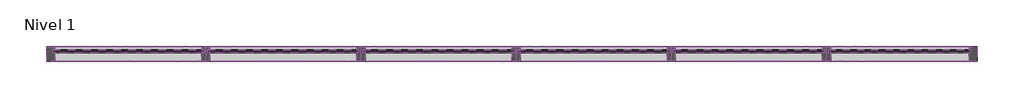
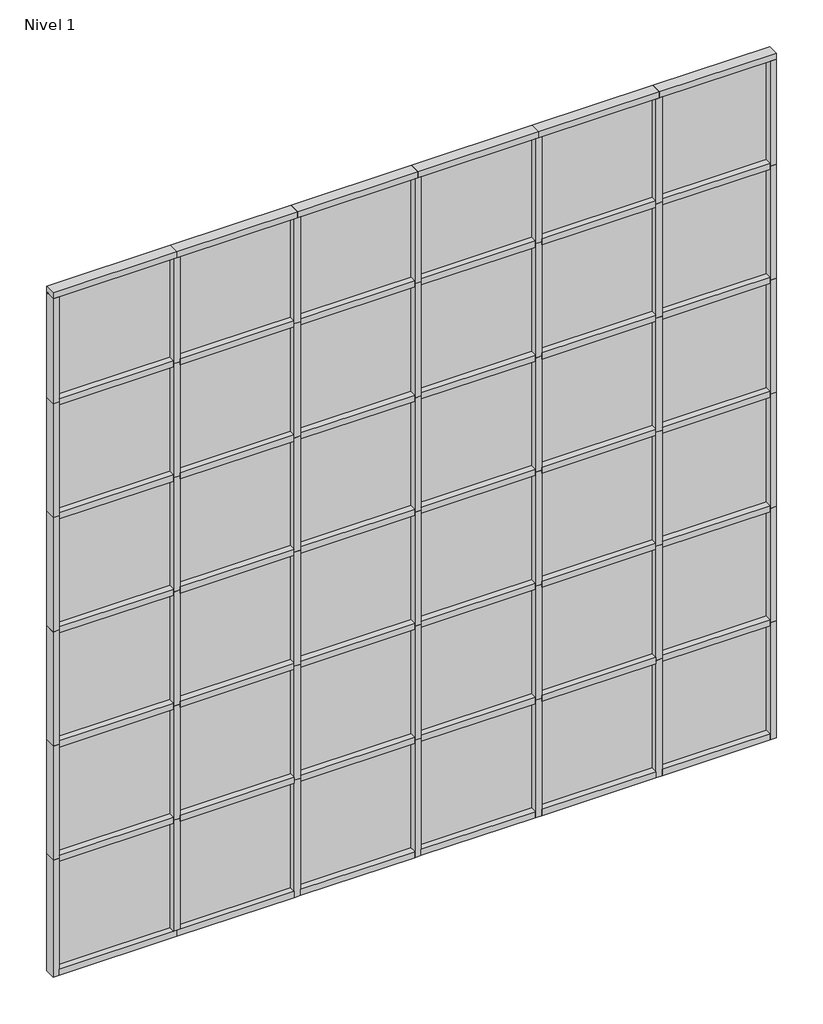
# One storey, part 2 of 12: 84 members, 36 plates.
"""IFC4 building model written with IfcOpenShell, lengths in millimetres."""

from ifc_helpers import new_model, si_unit, origin, place, context, project, spatial, transform, mapped, element, save
from components import montante_rectangular_montante_rectangular_central_30_8_mm_2c331f7a, montante_rectangular_montante_rectangular_central_30_8_mm_c970fd36, montante_rectangular_montante_rectangular_central_30_8_mm_e5800b63, montante_rectangular_montante_rectangular_central_30_8_mm_53c3e57f, montante_rectangular_montante_rectangular_central_30_8_mm_d86f33cf, montante_rectangular_montante_rectangular_central_30_8_mm_2cc1dee6, montante_rectangular_montante_rectangular_extremo_1_30_8_mm_80b4f17c, montante_rectangular_montante_rectangular_extremo_1_30_8_mm_140b2925, montante_rectangular_montante_rectangular_extremo_1_30_8_mm_5074caf2, montante_rectangular_montante_rectangular_extremo_1_30_8_mm_62ab01bd, montante_rectangular_montante_rectangular_extremo_1_30_8_mm_7b62097b, montante_rectangular_montante_rectangular_extremo_1_30_8_mm_4f2bc4b4, plate_e0fb009f, plate_7c9cb06b, plate_31a977c4, plate_dd025fa3

model = new_model("IFC4")

# Units and contexts
model_context = context("Model", 3, world=origin())
ifc_project = project(units=[si_unit("LENGTHUNIT", "METRE", prefix="MILLI")], contexts=[model_context])

# Site, building, storey
site = spatial("IfcSite", under=ifc_project)
building = spatial("IfcBuilding", under=site)
storey = spatial("IfcBuildingStorey", under=building, Name="Nivel 1", Elevation=0.0)

# Members
placement = place(None, origin())
montante_rectangular_montante_rectangular_central_30_8_mm_shape = montante_rectangular_montante_rectangular_central_30_8_mm_2c331f7a(model_context)
element("IfcMember", 1, ObjectType="Montante rectangular : Montante rectangular - Central_30.8 mm", at=placement, inside=storey, context=model_context, shape_type="MappedRepresentation", body=[
    mapped(montante_rectangular_montante_rectangular_central_30_8_mm_shape, transform((-131117.5480244, 4524.4730809, 1540.0), x_axis=(0.0, 0.0, 1.0), y_axis=(0.0, -1.0, 0.0), z_axis=(1.0, 0.0, 0.0))),
])
element("IfcMember", 2, ObjectType="Montante rectangular : Montante rectangular - Central_30.8 mm", at=placement, inside=storey, context=model_context, shape_type="MappedRepresentation", body=[
    mapped(montante_rectangular_montante_rectangular_central_30_8_mm_shape, transform((-129617.5480244, 4524.4730809, 1540.0), x_axis=(0.0, 0.0, 1.0), y_axis=(0.0, -1.0, 0.0), z_axis=(1.0, 0.0, 0.0))),
])
element("IfcMember", 3, ObjectType="Montante rectangular : Montante rectangular - Central_30.8 mm", at=placement, inside=storey, context=model_context, shape_type="MappedRepresentation", body=[
    mapped(montante_rectangular_montante_rectangular_central_30_8_mm_shape, transform((-128117.5480244, 4524.4730809, 1540.0), x_axis=(0.0, 0.0, 1.0), y_axis=(0.0, -1.0, 0.0), z_axis=(1.0, 0.0, 0.0))),
])
element("IfcMember", 4, ObjectType="Montante rectangular : Montante rectangular - Central_30.8 mm", at=placement, inside=storey, context=model_context, shape_type="MappedRepresentation", body=[
    mapped(montante_rectangular_montante_rectangular_central_30_8_mm_shape, transform((-126617.5480244, 4524.4730809, 1540.0), x_axis=(0.0, 0.0, 1.0), y_axis=(0.0, -1.0, 0.0), z_axis=(1.0, 0.0, 0.0))),
])
element("IfcMember", 5, ObjectType="Montante rectangular : Montante rectangular - Central_30.8 mm", at=placement, inside=storey, context=model_context, shape_type="MappedRepresentation", body=[
    mapped(montante_rectangular_montante_rectangular_central_30_8_mm_shape, transform((-125117.5480244, 4524.4730809, 1540.0), x_axis=(0.0, 0.0, 1.0), y_axis=(0.0, -1.0, 0.0), z_axis=(1.0, 0.0, 0.0))),
])
element("IfcMember", 6, ObjectType="Montante rectangular : Montante rectangular - Central_30.8 mm", at=placement, inside=storey, context=model_context, shape_type="MappedRepresentation", body=[
    mapped(montante_rectangular_montante_rectangular_central_30_8_mm_shape, transform((-131117.5480244, 4524.4730809, 3040.0), x_axis=(0.0, 0.0, 1.0), y_axis=(0.0, -1.0, 0.0), z_axis=(1.0, 0.0, 0.0))),
])
element("IfcMember", 7, ObjectType="Montante rectangular : Montante rectangular - Central_30.8 mm", at=placement, inside=storey, context=model_context, shape_type="MappedRepresentation", body=[
    mapped(montante_rectangular_montante_rectangular_central_30_8_mm_shape, transform((-129617.5480244, 4524.4730809, 3040.0), x_axis=(0.0, 0.0, 1.0), y_axis=(0.0, -1.0, 0.0), z_axis=(1.0, 0.0, 0.0))),
])
element("IfcMember", 8, ObjectType="Montante rectangular : Montante rectangular - Central_30.8 mm", at=placement, inside=storey, context=model_context, shape_type="MappedRepresentation", body=[
    mapped(montante_rectangular_montante_rectangular_central_30_8_mm_shape, transform((-128117.5480244, 4524.4730809, 3040.0), x_axis=(0.0, 0.0, 1.0), y_axis=(0.0, -1.0, 0.0), z_axis=(1.0, 0.0, 0.0))),
])
element("IfcMember", 9, ObjectType="Montante rectangular : Montante rectangular - Central_30.8 mm", at=placement, inside=storey, context=model_context, shape_type="MappedRepresentation", body=[
    mapped(montante_rectangular_montante_rectangular_central_30_8_mm_shape, transform((-126617.5480244, 4524.4730809, 3040.0), x_axis=(0.0, 0.0, 1.0), y_axis=(0.0, -1.0, 0.0), z_axis=(1.0, 0.0, 0.0))),
])
element("IfcMember", 10, ObjectType="Montante rectangular : Montante rectangular - Central_30.8 mm", at=placement, inside=storey, context=model_context, shape_type="MappedRepresentation", body=[
    mapped(montante_rectangular_montante_rectangular_central_30_8_mm_shape, transform((-125117.5480244, 4524.4730809, 3040.0), x_axis=(0.0, 0.0, 1.0), y_axis=(0.0, -1.0, 0.0), z_axis=(1.0, 0.0, 0.0))),
])
element("IfcMember", 11, ObjectType="Montante rectangular : Montante rectangular - Central_30.8 mm", at=placement, inside=storey, context=model_context, shape_type="MappedRepresentation", body=[
    mapped(montante_rectangular_montante_rectangular_central_30_8_mm_shape, transform((-131117.5480244, 4524.4730809, 4540.0), x_axis=(0.0, 0.0, 1.0), y_axis=(0.0, -1.0, 0.0), z_axis=(1.0, 0.0, 0.0))),
])
element("IfcMember", 12, ObjectType="Montante rectangular : Montante rectangular - Central_30.8 mm", at=placement, inside=storey, context=model_context, shape_type="MappedRepresentation", body=[
    mapped(montante_rectangular_montante_rectangular_central_30_8_mm_shape, transform((-129617.5480244, 4524.4730809, 4540.0), x_axis=(0.0, 0.0, 1.0), y_axis=(0.0, -1.0, 0.0), z_axis=(1.0, 0.0, 0.0))),
])
element("IfcMember", 13, ObjectType="Montante rectangular : Montante rectangular - Central_30.8 mm", at=placement, inside=storey, context=model_context, shape_type="MappedRepresentation", body=[
    mapped(montante_rectangular_montante_rectangular_central_30_8_mm_shape, transform((-128117.5480244, 4524.4730809, 4540.0), x_axis=(0.0, 0.0, 1.0), y_axis=(0.0, -1.0, 0.0), z_axis=(1.0, 0.0, 0.0))),
])
element("IfcMember", 14, ObjectType="Montante rectangular : Montante rectangular - Central_30.8 mm", at=placement, inside=storey, context=model_context, shape_type="MappedRepresentation", body=[
    mapped(montante_rectangular_montante_rectangular_central_30_8_mm_shape, transform((-126617.5480244, 4524.4730809, 4540.0), x_axis=(0.0, 0.0, 1.0), y_axis=(0.0, -1.0, 0.0), z_axis=(1.0, 0.0, 0.0))),
])
element("IfcMember", 15, ObjectType="Montante rectangular : Montante rectangular - Central_30.8 mm", at=placement, inside=storey, context=model_context, shape_type="MappedRepresentation", body=[
    mapped(montante_rectangular_montante_rectangular_central_30_8_mm_shape, transform((-125117.5480244, 4524.4730809, 4540.0), x_axis=(0.0, 0.0, 1.0), y_axis=(0.0, -1.0, 0.0), z_axis=(1.0, 0.0, 0.0))),
])
element("IfcMember", 16, ObjectType="Montante rectangular : Montante rectangular - Central_30.8 mm", at=placement, inside=storey, context=model_context, shape_type="MappedRepresentation", body=[
    mapped(montante_rectangular_montante_rectangular_central_30_8_mm_shape, transform((-131117.5480244, 4524.4730809, 6040.0), x_axis=(0.0, 0.0, 1.0), y_axis=(0.0, -1.0, 0.0), z_axis=(1.0, 0.0, 0.0))),
])
element("IfcMember", 17, ObjectType="Montante rectangular : Montante rectangular - Central_30.8 mm", at=placement, inside=storey, context=model_context, shape_type="MappedRepresentation", body=[
    mapped(montante_rectangular_montante_rectangular_central_30_8_mm_shape, transform((-129617.5480244, 4524.4730809, 6040.0), x_axis=(0.0, 0.0, 1.0), y_axis=(0.0, -1.0, 0.0), z_axis=(1.0, 0.0, 0.0))),
])
element("IfcMember", 18, ObjectType="Montante rectangular : Montante rectangular - Central_30.8 mm", at=placement, inside=storey, context=model_context, shape_type="MappedRepresentation", body=[
    mapped(montante_rectangular_montante_rectangular_central_30_8_mm_shape, transform((-128117.5480244, 4524.4730809, 6040.0), x_axis=(0.0, 0.0, 1.0), y_axis=(0.0, -1.0, 0.0), z_axis=(1.0, 0.0, 0.0))),
])
element("IfcMember", 19, ObjectType="Montante rectangular : Montante rectangular - Central_30.8 mm", at=placement, inside=storey, context=model_context, shape_type="MappedRepresentation", body=[
    mapped(montante_rectangular_montante_rectangular_central_30_8_mm_shape, transform((-126617.5480244, 4524.4730809, 6040.0), x_axis=(0.0, 0.0, 1.0), y_axis=(0.0, -1.0, 0.0), z_axis=(1.0, 0.0, 0.0))),
])
element("IfcMember", 20, ObjectType="Montante rectangular : Montante rectangular - Central_30.8 mm", at=placement, inside=storey, context=model_context, shape_type="MappedRepresentation", body=[
    mapped(montante_rectangular_montante_rectangular_central_30_8_mm_shape, transform((-125117.5480244, 4524.4730809, 6040.0), x_axis=(0.0, 0.0, 1.0), y_axis=(0.0, -1.0, 0.0), z_axis=(1.0, 0.0, 0.0))),
])
element("IfcMember", 21, ObjectType="Montante rectangular : Montante rectangular - Central_30.8 mm", at=placement, inside=storey, context=model_context, shape_type="MappedRepresentation", body=[
    mapped(montante_rectangular_montante_rectangular_central_30_8_mm_shape, transform((-131117.5480244, 4524.4730809, 7540.0), x_axis=(0.0, 0.0, 1.0), y_axis=(0.0, -1.0, 0.0), z_axis=(1.0, 0.0, 0.0))),
])
element("IfcMember", 22, ObjectType="Montante rectangular : Montante rectangular - Central_30.8 mm", at=placement, inside=storey, context=model_context, shape_type="MappedRepresentation", body=[
    mapped(montante_rectangular_montante_rectangular_central_30_8_mm_shape, transform((-129617.5480244, 4524.4730809, 7540.0), x_axis=(0.0, 0.0, 1.0), y_axis=(0.0, -1.0, 0.0), z_axis=(1.0, 0.0, 0.0))),
])
element("IfcMember", 23, ObjectType="Montante rectangular : Montante rectangular - Central_30.8 mm", at=placement, inside=storey, context=model_context, shape_type="MappedRepresentation", body=[
    mapped(montante_rectangular_montante_rectangular_central_30_8_mm_shape, transform((-128117.5480244, 4524.4730809, 7540.0), x_axis=(0.0, 0.0, 1.0), y_axis=(0.0, -1.0, 0.0), z_axis=(1.0, 0.0, 0.0))),
])
element("IfcMember", 24, ObjectType="Montante rectangular : Montante rectangular - Central_30.8 mm", at=placement, inside=storey, context=model_context, shape_type="MappedRepresentation", body=[
    mapped(montante_rectangular_montante_rectangular_central_30_8_mm_shape, transform((-126617.5480244, 4524.4730809, 7540.0), x_axis=(0.0, 0.0, 1.0), y_axis=(0.0, -1.0, 0.0), z_axis=(1.0, 0.0, 0.0))),
])
element("IfcMember", 25, ObjectType="Montante rectangular : Montante rectangular - Central_30.8 mm", at=placement, inside=storey, context=model_context, shape_type="MappedRepresentation", body=[
    mapped(montante_rectangular_montante_rectangular_central_30_8_mm_shape, transform((-125117.5480244, 4524.4730809, 7540.0), x_axis=(0.0, 0.0, 1.0), y_axis=(0.0, -1.0, 0.0), z_axis=(1.0, 0.0, 0.0))),
])
montante_rectangular_montante_rectangular_central_30_8_mm_2_shape = montante_rectangular_montante_rectangular_central_30_8_mm_c970fd36(model_context)
element("IfcMember", 26, ObjectType="Montante rectangular : Montante rectangular - Central_30.8 mm", at=placement, inside=storey, context=model_context, shape_type="MappedRepresentation", body=[
    mapped(montante_rectangular_montante_rectangular_central_30_8_mm_2_shape, transform((-131077.5480244, 4524.4730809, 80.0), x_axis=(1.0, 0.0, 0.0), y_axis=(0.0, -1.0, 0.0), z_axis=(0.0, 0.0, -1.0))),
])
montante_rectangular_montante_rectangular_central_30_8_mm_3_shape = montante_rectangular_montante_rectangular_central_30_8_mm_e5800b63(model_context)
element("IfcMember", 27, ObjectType="Montante rectangular : Montante rectangular - Central_30.8 mm", at=placement, inside=storey, context=model_context, shape_type="MappedRepresentation", body=[
    mapped(montante_rectangular_montante_rectangular_central_30_8_mm_3_shape, transform((-131077.5480244, 4524.4730809, 1540.0), x_axis=(1.0, 0.0, 0.0), y_axis=(0.0, -1.0, 0.0), z_axis=(0.0, 0.0, -1.0))),
])
element("IfcMember", 28, ObjectType="Montante rectangular : Montante rectangular - Central_30.8 mm", at=placement, inside=storey, context=model_context, shape_type="MappedRepresentation", body=[
    mapped(montante_rectangular_montante_rectangular_central_30_8_mm_3_shape, transform((-129577.5480244, 4524.4730809, 1540.0), x_axis=(1.0, 0.0, 0.0), y_axis=(0.0, -1.0, 0.0), z_axis=(0.0, 0.0, -1.0))),
])
element("IfcMember", 29, ObjectType="Montante rectangular : Montante rectangular - Central_30.8 mm", at=placement, inside=storey, context=model_context, shape_type="MappedRepresentation", body=[
    mapped(montante_rectangular_montante_rectangular_central_30_8_mm_3_shape, transform((-128077.5480244, 4524.4730809, 1540.0), x_axis=(1.0, 0.0, 0.0), y_axis=(0.0, -1.0, 0.0), z_axis=(0.0, 0.0, -1.0))),
])
element("IfcMember", 30, ObjectType="Montante rectangular : Montante rectangular - Central_30.8 mm", at=placement, inside=storey, context=model_context, shape_type="MappedRepresentation", body=[
    mapped(montante_rectangular_montante_rectangular_central_30_8_mm_3_shape, transform((-126577.5480244, 4524.4730809, 1540.0), x_axis=(1.0, 0.0, 0.0), y_axis=(0.0, -1.0, 0.0), z_axis=(0.0, 0.0, -1.0))),
])
element("IfcMember", 31, ObjectType="Montante rectangular : Montante rectangular - Central_30.8 mm", at=placement, inside=storey, context=model_context, shape_type="MappedRepresentation", body=[
    mapped(montante_rectangular_montante_rectangular_central_30_8_mm_3_shape, transform((-125077.5480244, 4524.4730809, 1540.0), x_axis=(1.0, 0.0, 0.0), y_axis=(0.0, -1.0, 0.0), z_axis=(0.0, 0.0, -1.0))),
])
element("IfcMember", 32, ObjectType="Montante rectangular : Montante rectangular - Central_30.8 mm", at=placement, inside=storey, context=model_context, shape_type="MappedRepresentation", body=[
    mapped(montante_rectangular_montante_rectangular_central_30_8_mm_3_shape, transform((-131077.5480244, 4524.4730809, 3040.0), x_axis=(1.0, 0.0, 0.0), y_axis=(0.0, -1.0, 0.0), z_axis=(0.0, 0.0, -1.0))),
])
element("IfcMember", 33, ObjectType="Montante rectangular : Montante rectangular - Central_30.8 mm", at=placement, inside=storey, context=model_context, shape_type="MappedRepresentation", body=[
    mapped(montante_rectangular_montante_rectangular_central_30_8_mm_3_shape, transform((-131077.5480244, 4524.4730809, 4540.0), x_axis=(1.0, 0.0, 0.0), y_axis=(0.0, -1.0, 0.0), z_axis=(0.0, 0.0, -1.0))),
])
element("IfcMember", 34, ObjectType="Montante rectangular : Montante rectangular - Central_30.8 mm", at=placement, inside=storey, context=model_context, shape_type="MappedRepresentation", body=[
    mapped(montante_rectangular_montante_rectangular_central_30_8_mm_3_shape, transform((-131077.5480244, 4524.4730809, 6040.0), x_axis=(1.0, 0.0, 0.0), y_axis=(0.0, -1.0, 0.0), z_axis=(0.0, 0.0, -1.0))),
])
element("IfcMember", 35, ObjectType="Montante rectangular : Montante rectangular - Central_30.8 mm", at=placement, inside=storey, context=model_context, shape_type="MappedRepresentation", body=[
    mapped(montante_rectangular_montante_rectangular_central_30_8_mm_3_shape, transform((-129577.5480244, 4524.4730809, 3040.0), x_axis=(1.0, 0.0, 0.0), y_axis=(0.0, -1.0, 0.0), z_axis=(0.0, 0.0, -1.0))),
])
element("IfcMember", 36, ObjectType="Montante rectangular : Montante rectangular - Central_30.8 mm", at=placement, inside=storey, context=model_context, shape_type="MappedRepresentation", body=[
    mapped(montante_rectangular_montante_rectangular_central_30_8_mm_3_shape, transform((-129577.5480244, 4524.4730809, 4540.0), x_axis=(1.0, 0.0, 0.0), y_axis=(0.0, -1.0, 0.0), z_axis=(0.0, 0.0, -1.0))),
])
element("IfcMember", 37, ObjectType="Montante rectangular : Montante rectangular - Central_30.8 mm", at=placement, inside=storey, context=model_context, shape_type="MappedRepresentation", body=[
    mapped(montante_rectangular_montante_rectangular_central_30_8_mm_3_shape, transform((-129577.5480244, 4524.4730809, 6040.0), x_axis=(1.0, 0.0, 0.0), y_axis=(0.0, -1.0, 0.0), z_axis=(0.0, 0.0, -1.0))),
])
element("IfcMember", 38, ObjectType="Montante rectangular : Montante rectangular - Central_30.8 mm", at=placement, inside=storey, context=model_context, shape_type="MappedRepresentation", body=[
    mapped(montante_rectangular_montante_rectangular_central_30_8_mm_3_shape, transform((-128077.5480244, 4524.4730809, 3040.0), x_axis=(1.0, 0.0, 0.0), y_axis=(0.0, -1.0, 0.0), z_axis=(0.0, 0.0, -1.0))),
])
element("IfcMember", 39, ObjectType="Montante rectangular : Montante rectangular - Central_30.8 mm", at=placement, inside=storey, context=model_context, shape_type="MappedRepresentation", body=[
    mapped(montante_rectangular_montante_rectangular_central_30_8_mm_3_shape, transform((-128077.5480244, 4524.4730809, 4540.0), x_axis=(1.0, 0.0, 0.0), y_axis=(0.0, -1.0, 0.0), z_axis=(0.0, 0.0, -1.0))),
])
element("IfcMember", 40, ObjectType="Montante rectangular : Montante rectangular - Central_30.8 mm", at=placement, inside=storey, context=model_context, shape_type="MappedRepresentation", body=[
    mapped(montante_rectangular_montante_rectangular_central_30_8_mm_3_shape, transform((-128077.5480244, 4524.4730809, 6040.0), x_axis=(1.0, 0.0, 0.0), y_axis=(0.0, -1.0, 0.0), z_axis=(0.0, 0.0, -1.0))),
])
element("IfcMember", 41, ObjectType="Montante rectangular : Montante rectangular - Central_30.8 mm", at=placement, inside=storey, context=model_context, shape_type="MappedRepresentation", body=[
    mapped(montante_rectangular_montante_rectangular_central_30_8_mm_3_shape, transform((-126577.5480244, 4524.4730809, 3040.0), x_axis=(1.0, 0.0, 0.0), y_axis=(0.0, -1.0, 0.0), z_axis=(0.0, 0.0, -1.0))),
])
element("IfcMember", 42, ObjectType="Montante rectangular : Montante rectangular - Central_30.8 mm", at=placement, inside=storey, context=model_context, shape_type="MappedRepresentation", body=[
    mapped(montante_rectangular_montante_rectangular_central_30_8_mm_3_shape, transform((-126577.5480244, 4524.4730809, 4540.0), x_axis=(1.0, 0.0, 0.0), y_axis=(0.0, -1.0, 0.0), z_axis=(0.0, 0.0, -1.0))),
])
element("IfcMember", 43, ObjectType="Montante rectangular : Montante rectangular - Central_30.8 mm", at=placement, inside=storey, context=model_context, shape_type="MappedRepresentation", body=[
    mapped(montante_rectangular_montante_rectangular_central_30_8_mm_3_shape, transform((-126577.5480244, 4524.4730809, 6040.0), x_axis=(1.0, 0.0, 0.0), y_axis=(0.0, -1.0, 0.0), z_axis=(0.0, 0.0, -1.0))),
])
element("IfcMember", 44, ObjectType="Montante rectangular : Montante rectangular - Central_30.8 mm", at=placement, inside=storey, context=model_context, shape_type="MappedRepresentation", body=[
    mapped(montante_rectangular_montante_rectangular_central_30_8_mm_3_shape, transform((-125077.5480244, 4524.4730809, 3040.0), x_axis=(1.0, 0.0, 0.0), y_axis=(0.0, -1.0, 0.0), z_axis=(0.0, 0.0, -1.0))),
])
element("IfcMember", 45, ObjectType="Montante rectangular : Montante rectangular - Central_30.8 mm", at=placement, inside=storey, context=model_context, shape_type="MappedRepresentation", body=[
    mapped(montante_rectangular_montante_rectangular_central_30_8_mm_3_shape, transform((-125077.5480244, 4524.4730809, 4540.0), x_axis=(1.0, 0.0, 0.0), y_axis=(0.0, -1.0, 0.0), z_axis=(0.0, 0.0, -1.0))),
])
element("IfcMember", 46, ObjectType="Montante rectangular : Montante rectangular - Central_30.8 mm", at=placement, inside=storey, context=model_context, shape_type="MappedRepresentation", body=[
    mapped(montante_rectangular_montante_rectangular_central_30_8_mm_3_shape, transform((-125077.5480244, 4524.4730809, 6040.0), x_axis=(1.0, 0.0, 0.0), y_axis=(0.0, -1.0, 0.0), z_axis=(0.0, 0.0, -1.0))),
])
montante_rectangular_montante_rectangular_central_30_8_mm_4_shape = montante_rectangular_montante_rectangular_central_30_8_mm_53c3e57f(model_context)
element("IfcMember", 47, ObjectType="Montante rectangular : Montante rectangular - Central_30.8 mm", at=placement, inside=storey, context=model_context, shape_type="MappedRepresentation", body=[
    mapped(montante_rectangular_montante_rectangular_central_30_8_mm_4_shape, transform((-129577.5480244, 4524.4730809, 0.0), x_axis=(1.0, 0.0, 0.0), y_axis=(0.0, -1.0, 0.0), z_axis=(0.0, 0.0, -1.0))),
])
element("IfcMember", 48, ObjectType="Montante rectangular : Montante rectangular - Central_30.8 mm", at=placement, inside=storey, context=model_context, shape_type="MappedRepresentation", body=[
    mapped(montante_rectangular_montante_rectangular_central_30_8_mm_4_shape, transform((-128077.5480244, 4524.4730809, 0.0), x_axis=(1.0, 0.0, 0.0), y_axis=(0.0, -1.0, 0.0), z_axis=(0.0, 0.0, -1.0))),
])
element("IfcMember", 49, ObjectType="Montante rectangular : Montante rectangular - Central_30.8 mm", at=placement, inside=storey, context=model_context, shape_type="MappedRepresentation", body=[
    mapped(montante_rectangular_montante_rectangular_central_30_8_mm_4_shape, transform((-126577.5480244, 4524.4730809, 0.0), x_axis=(1.0, 0.0, 0.0), y_axis=(0.0, -1.0, 0.0), z_axis=(0.0, 0.0, -1.0))),
])
element("IfcMember", 50, ObjectType="Montante rectangular : Montante rectangular - Central_30.8 mm", at=placement, inside=storey, context=model_context, shape_type="MappedRepresentation", body=[
    mapped(montante_rectangular_montante_rectangular_central_30_8_mm_4_shape, transform((-125077.5480244, 4524.4730809, 0.0), x_axis=(1.0, 0.0, 0.0), y_axis=(0.0, -1.0, 0.0), z_axis=(0.0, 0.0, -1.0))),
])
montante_rectangular_montante_rectangular_central_30_8_mm_5_shape = montante_rectangular_montante_rectangular_central_30_8_mm_d86f33cf(model_context)
element("IfcMember", 51, ObjectType="Montante rectangular : Montante rectangular - Central_30.8 mm", at=placement, inside=storey, context=model_context, shape_type="MappedRepresentation", body=[
    mapped(montante_rectangular_montante_rectangular_central_30_8_mm_5_shape, transform((-123697.5480244, 4524.4730809, 1540.0), x_axis=(0.0, 0.0, 1.0), y_axis=(0.0, -1.0, 0.0), z_axis=(1.0, 0.0, 0.0))),
])
element("IfcMember", 52, ObjectType="Montante rectangular : Montante rectangular - Central_30.8 mm", at=placement, inside=storey, context=model_context, shape_type="MappedRepresentation", body=[
    mapped(montante_rectangular_montante_rectangular_central_30_8_mm_5_shape, transform((-123697.5480244, 4524.4730809, 3040.0), x_axis=(0.0, 0.0, 1.0), y_axis=(0.0, -1.0, 0.0), z_axis=(1.0, 0.0, 0.0))),
])
element("IfcMember", 53, ObjectType="Montante rectangular : Montante rectangular - Central_30.8 mm", at=placement, inside=storey, context=model_context, shape_type="MappedRepresentation", body=[
    mapped(montante_rectangular_montante_rectangular_central_30_8_mm_5_shape, transform((-123697.5480244, 4524.4730809, 4540.0), x_axis=(0.0, 0.0, 1.0), y_axis=(0.0, -1.0, 0.0), z_axis=(1.0, 0.0, 0.0))),
])
element("IfcMember", 54, ObjectType="Montante rectangular : Montante rectangular - Central_30.8 mm", at=placement, inside=storey, context=model_context, shape_type="MappedRepresentation", body=[
    mapped(montante_rectangular_montante_rectangular_central_30_8_mm_5_shape, transform((-123697.5480244, 4524.4730809, 6040.0), x_axis=(0.0, 0.0, 1.0), y_axis=(0.0, -1.0, 0.0), z_axis=(1.0, 0.0, 0.0))),
])
element("IfcMember", 55, ObjectType="Montante rectangular : Montante rectangular - Central_30.8 mm", at=placement, inside=storey, context=model_context, shape_type="MappedRepresentation", body=[
    mapped(montante_rectangular_montante_rectangular_central_30_8_mm_5_shape, transform((-123697.5480244, 4524.4730809, 7540.0), x_axis=(0.0, 0.0, 1.0), y_axis=(0.0, -1.0, 0.0), z_axis=(1.0, 0.0, 0.0))),
])
montante_rectangular_montante_rectangular_central_30_8_mm_6_shape = montante_rectangular_montante_rectangular_central_30_8_mm_2cc1dee6(model_context)
element("IfcMember", 56, ObjectType="Montante rectangular : Montante rectangular - Central_30.8 mm", at=placement, inside=storey, context=model_context, shape_type="MappedRepresentation", body=[
    mapped(montante_rectangular_montante_rectangular_central_30_8_mm_6_shape, transform((-131077.5480244, 4524.4730809, 7540.0), x_axis=(1.0, 0.0, 0.0), y_axis=(0.0, -1.0, 0.0), z_axis=(0.0, 0.0, -1.0))),
])
element("IfcMember", 57, ObjectType="Montante rectangular : Montante rectangular - Central_30.8 mm", at=placement, inside=storey, context=model_context, shape_type="MappedRepresentation", body=[
    mapped(montante_rectangular_montante_rectangular_central_30_8_mm_6_shape, transform((-129577.5480244, 4524.4730809, 7540.0), x_axis=(1.0, 0.0, 0.0), y_axis=(0.0, -1.0, 0.0), z_axis=(0.0, 0.0, -1.0))),
])
element("IfcMember", 58, ObjectType="Montante rectangular : Montante rectangular - Central_30.8 mm", at=placement, inside=storey, context=model_context, shape_type="MappedRepresentation", body=[
    mapped(montante_rectangular_montante_rectangular_central_30_8_mm_6_shape, transform((-128077.5480244, 4524.4730809, 7540.0), x_axis=(1.0, 0.0, 0.0), y_axis=(0.0, -1.0, 0.0), z_axis=(0.0, 0.0, -1.0))),
])
element("IfcMember", 59, ObjectType="Montante rectangular : Montante rectangular - Central_30.8 mm", at=placement, inside=storey, context=model_context, shape_type="MappedRepresentation", body=[
    mapped(montante_rectangular_montante_rectangular_central_30_8_mm_6_shape, transform((-126577.5480244, 4524.4730809, 7540.0), x_axis=(1.0, 0.0, 0.0), y_axis=(0.0, -1.0, 0.0), z_axis=(0.0, 0.0, -1.0))),
])
element("IfcMember", 60, ObjectType="Montante rectangular : Montante rectangular - Central_30.8 mm", at=placement, inside=storey, context=model_context, shape_type="MappedRepresentation", body=[
    mapped(montante_rectangular_montante_rectangular_central_30_8_mm_6_shape, transform((-125077.5480244, 4524.4730809, 7540.0), x_axis=(1.0, 0.0, 0.0), y_axis=(0.0, -1.0, 0.0), z_axis=(0.0, 0.0, -1.0))),
])
montante_rectangular_montante_rectangular_extremo_1_30_8_mm_shape = montante_rectangular_montante_rectangular_extremo_1_30_8_mm_80b4f17c(model_context)
element("IfcMember", 61, ObjectType="Montante rectangular : Montante rectangular - Extremo 1_30.8 mm", at=placement, inside=storey, context=model_context, shape_type="MappedRepresentation", body=[
    mapped(montante_rectangular_montante_rectangular_extremo_1_30_8_mm_shape, transform((-132537.5480244, 4524.4730809, 0.0), x_axis=(0.0, 0.0, -1.0), y_axis=(0.0, -1.0, 0.0), z_axis=(-1.0, 0.0, 0.0))),
])
element("IfcMember", 62, ObjectType="Montante rectangular : Montante rectangular - Extremo 1_30.8 mm", at=placement, inside=storey, context=model_context, shape_type="MappedRepresentation", body=[
    mapped(montante_rectangular_montante_rectangular_extremo_1_30_8_mm_shape, transform((-131077.5480244, 4524.4730809, 0.0), x_axis=(0.0, 0.0, -1.0), y_axis=(0.0, -1.0, 0.0), z_axis=(-1.0, 0.0, 0.0))),
])
montante_rectangular_montante_rectangular_extremo_1_30_8_mm_2_shape = montante_rectangular_montante_rectangular_extremo_1_30_8_mm_140b2925(model_context)
element("IfcMember", 63, ObjectType="Montante rectangular : Montante rectangular - Extremo 1_30.8 mm", at=placement, inside=storey, context=model_context, shape_type="MappedRepresentation", body=[
    mapped(montante_rectangular_montante_rectangular_extremo_1_30_8_mm_2_shape, transform((-129537.5480244, 4524.4730809, 0.0), x_axis=(0.0, 0.0, -1.0), y_axis=(0.0, -1.0, 0.0), z_axis=(-1.0, 0.0, 0.0))),
])
element("IfcMember", 64, ObjectType="Montante rectangular : Montante rectangular - Extremo 1_30.8 mm", at=placement, inside=storey, context=model_context, shape_type="MappedRepresentation", body=[
    mapped(montante_rectangular_montante_rectangular_extremo_1_30_8_mm_2_shape, transform((-128037.5480244, 4524.4730809, 0.0), x_axis=(0.0, 0.0, -1.0), y_axis=(0.0, -1.0, 0.0), z_axis=(-1.0, 0.0, 0.0))),
])
element("IfcMember", 65, ObjectType="Montante rectangular : Montante rectangular - Extremo 1_30.8 mm", at=placement, inside=storey, context=model_context, shape_type="MappedRepresentation", body=[
    mapped(montante_rectangular_montante_rectangular_extremo_1_30_8_mm_2_shape, transform((-126537.5480244, 4524.4730809, 0.0), x_axis=(0.0, 0.0, -1.0), y_axis=(0.0, -1.0, 0.0), z_axis=(-1.0, 0.0, 0.0))),
])
montante_rectangular_montante_rectangular_extremo_1_30_8_mm_3_shape = montante_rectangular_montante_rectangular_extremo_1_30_8_mm_5074caf2(model_context)
element("IfcMember", 66, ObjectType="Montante rectangular : Montante rectangular - Extremo 1_30.8 mm", at=placement, inside=storey, context=model_context, shape_type="MappedRepresentation", body=[
    mapped(montante_rectangular_montante_rectangular_extremo_1_30_8_mm_3_shape, transform((-125037.5480244, 4524.4730809, 0.0), x_axis=(0.0, 0.0, -1.0), y_axis=(0.0, -1.0, 0.0), z_axis=(-1.0, 0.0, 0.0))),
])
montante_rectangular_montante_rectangular_extremo_1_30_8_mm_4_shape = montante_rectangular_montante_rectangular_extremo_1_30_8_mm_62ab01bd(model_context)
element("IfcMember", 67, ObjectType="Montante rectangular : Montante rectangular - Extremo 1_30.8 mm", at=placement, inside=storey, context=model_context, shape_type="MappedRepresentation", body=[
    mapped(montante_rectangular_montante_rectangular_extremo_1_30_8_mm_4_shape, transform((-132617.5480244, 4524.4730809, 8920.0), x_axis=(-1.0, 0.0, 0.0), y_axis=(0.0, -1.0, 0.0), z_axis=(0.0, 0.0, 1.0))),
])
montante_rectangular_montante_rectangular_extremo_1_30_8_mm_5_shape = montante_rectangular_montante_rectangular_extremo_1_30_8_mm_7b62097b(model_context)
element("IfcMember", 68, ObjectType="Montante rectangular : Montante rectangular - Extremo 1_30.8 mm", at=placement, inside=storey, context=model_context, shape_type="MappedRepresentation", body=[
    mapped(montante_rectangular_montante_rectangular_extremo_1_30_8_mm_5_shape, transform((-132617.5480244, 4524.4730809, 1540.0), x_axis=(-1.0, 0.0, 0.0), y_axis=(0.0, -1.0, 0.0), z_axis=(0.0, 0.0, 1.0))),
])
montante_rectangular_montante_rectangular_extremo_1_30_8_mm_6_shape = montante_rectangular_montante_rectangular_extremo_1_30_8_mm_4f2bc4b4(model_context)
element("IfcMember", 69, ObjectType="Montante rectangular : Montante rectangular - Extremo 1_30.8 mm", at=placement, inside=storey, context=model_context, shape_type="MappedRepresentation", body=[
    mapped(montante_rectangular_montante_rectangular_extremo_1_30_8_mm_6_shape, transform((-132617.5480244, 4524.4730809, 3040.0), x_axis=(-1.0, 0.0, 0.0), y_axis=(0.0, -1.0, 0.0), z_axis=(0.0, 0.0, 1.0))),
])
element("IfcMember", 70, ObjectType="Montante rectangular : Montante rectangular - Extremo 1_30.8 mm", at=placement, inside=storey, context=model_context, shape_type="MappedRepresentation", body=[
    mapped(montante_rectangular_montante_rectangular_extremo_1_30_8_mm_6_shape, transform((-132617.5480244, 4524.4730809, 4540.0), x_axis=(-1.0, 0.0, 0.0), y_axis=(0.0, -1.0, 0.0), z_axis=(0.0, 0.0, 1.0))),
])
element("IfcMember", 71, ObjectType="Montante rectangular : Montante rectangular - Extremo 1_30.8 mm", at=placement, inside=storey, context=model_context, shape_type="MappedRepresentation", body=[
    mapped(montante_rectangular_montante_rectangular_extremo_1_30_8_mm_6_shape, transform((-132617.5480244, 4524.4730809, 6040.0), x_axis=(-1.0, 0.0, 0.0), y_axis=(0.0, -1.0, 0.0), z_axis=(0.0, 0.0, 1.0))),
])
element("IfcMember", 72, ObjectType="Montante rectangular : Montante rectangular - Extremo 1_30.8 mm", at=placement, inside=storey, context=model_context, shape_type="MappedRepresentation", body=[
    mapped(montante_rectangular_montante_rectangular_extremo_1_30_8_mm_6_shape, transform((-132617.5480244, 4524.4730809, 7540.0), x_axis=(-1.0, 0.0, 0.0), y_axis=(0.0, -1.0, 0.0), z_axis=(0.0, 0.0, 1.0))),
])
element("IfcMember", 73, ObjectType="Montante rectangular : Montante rectangular - Extremo 2_30.8 mm", at=placement, inside=storey, context=model_context, shape_type="MappedRepresentation", body=[
    mapped(montante_rectangular_montante_rectangular_extremo_1_30_8_mm_shape, transform((-123617.5480244, 4524.4730809, 9000.0), x_axis=(0.0, 0.0, 1.0), y_axis=(0.0, -1.0, 0.0), z_axis=(1.0, 0.0, 0.0))),
])
element("IfcMember", 74, ObjectType="Montante rectangular : Montante rectangular - Extremo 2_30.8 mm", at=placement, inside=storey, context=model_context, shape_type="MappedRepresentation", body=[
    mapped(montante_rectangular_montante_rectangular_extremo_1_30_8_mm_5_shape, transform((-131077.5480244, 4524.4730809, 9000.0), x_axis=(0.0, 0.0, 1.0), y_axis=(0.0, -1.0, 0.0), z_axis=(1.0, 0.0, 0.0))),
])
element("IfcMember", 75, ObjectType="Montante rectangular : Montante rectangular - Extremo 2_30.8 mm", at=placement, inside=storey, context=model_context, shape_type="MappedRepresentation", body=[
    mapped(montante_rectangular_montante_rectangular_extremo_1_30_8_mm_6_shape, transform((-129577.5480244, 4524.4730809, 9000.0), x_axis=(0.0, 0.0, 1.0), y_axis=(0.0, -1.0, 0.0), z_axis=(1.0, 0.0, 0.0))),
])
element("IfcMember", 76, ObjectType="Montante rectangular : Montante rectangular - Extremo 2_30.8 mm", at=placement, inside=storey, context=model_context, shape_type="MappedRepresentation", body=[
    mapped(montante_rectangular_montante_rectangular_extremo_1_30_8_mm_6_shape, transform((-128077.5480244, 4524.4730809, 9000.0), x_axis=(0.0, 0.0, 1.0), y_axis=(0.0, -1.0, 0.0), z_axis=(1.0, 0.0, 0.0))),
])
element("IfcMember", 77, ObjectType="Montante rectangular : Montante rectangular - Extremo 2_30.8 mm", at=placement, inside=storey, context=model_context, shape_type="MappedRepresentation", body=[
    mapped(montante_rectangular_montante_rectangular_extremo_1_30_8_mm_6_shape, transform((-126577.5480244, 4524.4730809, 9000.0), x_axis=(0.0, 0.0, 1.0), y_axis=(0.0, -1.0, 0.0), z_axis=(1.0, 0.0, 0.0))),
])
element("IfcMember", 78, ObjectType="Montante rectangular : Montante rectangular - Extremo 2_30.8 mm", at=placement, inside=storey, context=model_context, shape_type="MappedRepresentation", body=[
    mapped(montante_rectangular_montante_rectangular_extremo_1_30_8_mm_6_shape, transform((-125077.5480244, 4524.4730809, 9000.0), x_axis=(0.0, 0.0, 1.0), y_axis=(0.0, -1.0, 0.0), z_axis=(1.0, 0.0, 0.0))),
])
element("IfcMember", 79, ObjectType="Montante rectangular : Montante rectangular - Extremo 2_30.8 mm", at=placement, inside=storey, context=model_context, shape_type="MappedRepresentation", body=[
    mapped(montante_rectangular_montante_rectangular_extremo_1_30_8_mm_5_shape, transform((-123617.5480244, 4524.4730809, 0.0), x_axis=(1.0, 0.0, 0.0), y_axis=(0.0, -1.0, 0.0), z_axis=(0.0, 0.0, -1.0))),
])
element("IfcMember", 80, ObjectType="Montante rectangular : Montante rectangular - Extremo 2_30.8 mm", at=placement, inside=storey, context=model_context, shape_type="MappedRepresentation", body=[
    mapped(montante_rectangular_montante_rectangular_extremo_1_30_8_mm_6_shape, transform((-123617.5480244, 4524.4730809, 1540.0), x_axis=(1.0, 0.0, 0.0), y_axis=(0.0, -1.0, 0.0), z_axis=(0.0, 0.0, -1.0))),
])
element("IfcMember", 81, ObjectType="Montante rectangular : Montante rectangular - Extremo 2_30.8 mm", at=placement, inside=storey, context=model_context, shape_type="MappedRepresentation", body=[
    mapped(montante_rectangular_montante_rectangular_extremo_1_30_8_mm_6_shape, transform((-123617.5480244, 4524.4730809, 3040.0), x_axis=(1.0, 0.0, 0.0), y_axis=(0.0, -1.0, 0.0), z_axis=(0.0, 0.0, -1.0))),
])
element("IfcMember", 82, ObjectType="Montante rectangular : Montante rectangular - Extremo 2_30.8 mm", at=placement, inside=storey, context=model_context, shape_type="MappedRepresentation", body=[
    mapped(montante_rectangular_montante_rectangular_extremo_1_30_8_mm_6_shape, transform((-123617.5480244, 4524.4730809, 4540.0), x_axis=(1.0, 0.0, 0.0), y_axis=(0.0, -1.0, 0.0), z_axis=(0.0, 0.0, -1.0))),
])
element("IfcMember", 83, ObjectType="Montante rectangular : Montante rectangular - Extremo 2_30.8 mm", at=placement, inside=storey, context=model_context, shape_type="MappedRepresentation", body=[
    mapped(montante_rectangular_montante_rectangular_extremo_1_30_8_mm_6_shape, transform((-123617.5480244, 4524.4730809, 6040.0), x_axis=(1.0, 0.0, 0.0), y_axis=(0.0, -1.0, 0.0), z_axis=(0.0, 0.0, -1.0))),
])
element("IfcMember", 84, ObjectType="Montante rectangular : Montante rectangular - Extremo 2_30.8 mm", at=placement, inside=storey, context=model_context, shape_type="MappedRepresentation", body=[
    mapped(montante_rectangular_montante_rectangular_extremo_1_30_8_mm_4_shape, transform((-123617.5480244, 4524.4730809, 7540.0), x_axis=(1.0, 0.0, 0.0), y_axis=(0.0, -1.0, 0.0), z_axis=(0.0, 0.0, -1.0))),
])

# Plates
plate_shape = plate_e0fb009f(model_context)
element("IfcPlate", 85, ObjectType="2014_Panel-Cristal-MC_SGG_COOL-LITE-ST 108 : CLIMALIT PLUS con COOL LITE ST 108 F2 6 (16 argon90%) 44.2", at=placement, inside=storey, context=model_context, shape_type="MappedRepresentation", body=[
    mapped(plate_shape, transform((-131827.5480244, 4524.4730809, 80.0), x_axis=(1.0, 0.0, 0.0), y_axis=(0.0, 1.0, 0.0), z_axis=(0.0, 0.0, 1.0))),
])
element("IfcPlate", 86, ObjectType="2014_Panel-Cristal-MC_SGG_COOL-LITE-ST 108 : CLIMALIT PLUS con COOL LITE ST 108 F2 6 (16 argon90%) 44.2", at=placement, inside=storey, context=model_context, shape_type="MappedRepresentation", body=[
    mapped(plate_shape, transform((-131827.5480244, 4524.4730809, 1580.0), x_axis=(1.0, 0.0, 0.0), y_axis=(0.0, 1.0, 0.0), z_axis=(0.0, 0.0, 1.0))),
])
element("IfcPlate", 87, ObjectType="2014_Panel-Cristal-MC_SGG_COOL-LITE-ST 108 : CLIMALIT PLUS con COOL LITE ST 108 F2 6 (16 argon90%) 44.2", at=placement, inside=storey, context=model_context, shape_type="MappedRepresentation", body=[
    mapped(plate_shape, transform((-131827.5480244, 4524.4730809, 3080.0), x_axis=(1.0, 0.0, 0.0), y_axis=(0.0, 1.0, 0.0), z_axis=(0.0, 0.0, 1.0))),
])
element("IfcPlate", 88, ObjectType="2014_Panel-Cristal-MC_SGG_COOL-LITE-ST 108 : CLIMALIT PLUS con COOL LITE ST 108 F2 6 (16 argon90%) 44.2", at=placement, inside=storey, context=model_context, shape_type="MappedRepresentation", body=[
    mapped(plate_shape, transform((-131827.5480244, 4524.4730809, 4580.0), x_axis=(1.0, 0.0, 0.0), y_axis=(0.0, 1.0, 0.0), z_axis=(0.0, 0.0, 1.0))),
])
element("IfcPlate", 89, ObjectType="2014_Panel-Cristal-MC_SGG_COOL-LITE-ST 108 : CLIMALIT PLUS con COOL LITE ST 108 F2 6 (16 argon90%) 44.2", at=placement, inside=storey, context=model_context, shape_type="MappedRepresentation", body=[
    mapped(plate_shape, transform((-131827.5480244, 4524.4730809, 6080.0), x_axis=(1.0, 0.0, 0.0), y_axis=(0.0, 1.0, 0.0), z_axis=(0.0, 0.0, 1.0))),
])
element("IfcPlate", 90, ObjectType="2014_Panel-Cristal-MC_SGG_COOL-LITE-ST 108 : CLIMALIT PLUS con COOL LITE ST 108 F2 6 (16 argon90%) 44.2", at=placement, inside=storey, context=model_context, shape_type="MappedRepresentation", body=[
    mapped(plate_shape, transform((-130327.5480244, 4524.4730809, 80.0), x_axis=(1.0, 0.0, 0.0), y_axis=(0.0, 1.0, 0.0), z_axis=(0.0, 0.0, 1.0))),
])
element("IfcPlate", 91, ObjectType="2014_Panel-Cristal-MC_SGG_COOL-LITE-ST 108 : CLIMALIT PLUS con COOL LITE ST 108 F2 6 (16 argon90%) 44.2", at=placement, inside=storey, context=model_context, shape_type="MappedRepresentation", body=[
    mapped(plate_shape, transform((-130327.5480244, 4524.4730809, 1580.0), x_axis=(1.0, 0.0, 0.0), y_axis=(0.0, 1.0, 0.0), z_axis=(0.0, 0.0, 1.0))),
])
element("IfcPlate", 92, ObjectType="2014_Panel-Cristal-MC_SGG_COOL-LITE-ST 108 : CLIMALIT PLUS con COOL LITE ST 108 F2 6 (16 argon90%) 44.2", at=placement, inside=storey, context=model_context, shape_type="MappedRepresentation", body=[
    mapped(plate_shape, transform((-130327.5480244, 4524.4730809, 3080.0), x_axis=(1.0, 0.0, 0.0), y_axis=(0.0, 1.0, 0.0), z_axis=(0.0, 0.0, 1.0))),
])
element("IfcPlate", 93, ObjectType="2014_Panel-Cristal-MC_SGG_COOL-LITE-ST 108 : CLIMALIT PLUS con COOL LITE ST 108 F2 6 (16 argon90%) 44.2", at=placement, inside=storey, context=model_context, shape_type="MappedRepresentation", body=[
    mapped(plate_shape, transform((-130327.5480244, 4524.4730809, 4580.0), x_axis=(1.0, 0.0, 0.0), y_axis=(0.0, 1.0, 0.0), z_axis=(0.0, 0.0, 1.0))),
])
element("IfcPlate", 94, ObjectType="2014_Panel-Cristal-MC_SGG_COOL-LITE-ST 108 : CLIMALIT PLUS con COOL LITE ST 108 F2 6 (16 argon90%) 44.2", at=placement, inside=storey, context=model_context, shape_type="MappedRepresentation", body=[
    mapped(plate_shape, transform((-130327.5480244, 4524.4730809, 6080.0), x_axis=(1.0, 0.0, 0.0), y_axis=(0.0, 1.0, 0.0), z_axis=(0.0, 0.0, 1.0))),
])
element("IfcPlate", 95, ObjectType="2014_Panel-Cristal-MC_SGG_COOL-LITE-ST 108 : CLIMALIT PLUS con COOL LITE ST 108 F2 6 (16 argon90%) 44.2", at=placement, inside=storey, context=model_context, shape_type="MappedRepresentation", body=[
    mapped(plate_shape, transform((-128827.5480244, 4524.4730809, 80.0), x_axis=(1.0, 0.0, 0.0), y_axis=(0.0, 1.0, 0.0), z_axis=(0.0, 0.0, 1.0))),
])
element("IfcPlate", 96, ObjectType="2014_Panel-Cristal-MC_SGG_COOL-LITE-ST 108 : CLIMALIT PLUS con COOL LITE ST 108 F2 6 (16 argon90%) 44.2", at=placement, inside=storey, context=model_context, shape_type="MappedRepresentation", body=[
    mapped(plate_shape, transform((-128827.5480244, 4524.4730809, 1580.0), x_axis=(1.0, 0.0, 0.0), y_axis=(0.0, 1.0, 0.0), z_axis=(0.0, 0.0, 1.0))),
])
element("IfcPlate", 97, ObjectType="2014_Panel-Cristal-MC_SGG_COOL-LITE-ST 108 : CLIMALIT PLUS con COOL LITE ST 108 F2 6 (16 argon90%) 44.2", at=placement, inside=storey, context=model_context, shape_type="MappedRepresentation", body=[
    mapped(plate_shape, transform((-128827.5480244, 4524.4730809, 3080.0), x_axis=(1.0, 0.0, 0.0), y_axis=(0.0, 1.0, 0.0), z_axis=(0.0, 0.0, 1.0))),
])
element("IfcPlate", 98, ObjectType="2014_Panel-Cristal-MC_SGG_COOL-LITE-ST 108 : CLIMALIT PLUS con COOL LITE ST 108 F2 6 (16 argon90%) 44.2", at=placement, inside=storey, context=model_context, shape_type="MappedRepresentation", body=[
    mapped(plate_shape, transform((-128827.5480244, 4524.4730809, 4580.0), x_axis=(1.0, 0.0, 0.0), y_axis=(0.0, 1.0, 0.0), z_axis=(0.0, 0.0, 1.0))),
])
element("IfcPlate", 99, ObjectType="2014_Panel-Cristal-MC_SGG_COOL-LITE-ST 108 : CLIMALIT PLUS con COOL LITE ST 108 F2 6 (16 argon90%) 44.2", at=placement, inside=storey, context=model_context, shape_type="MappedRepresentation", body=[
    mapped(plate_shape, transform((-128827.5480244, 4524.4730809, 6080.0), x_axis=(1.0, 0.0, 0.0), y_axis=(0.0, 1.0, 0.0), z_axis=(0.0, 0.0, 1.0))),
])
element("IfcPlate", 100, ObjectType="2014_Panel-Cristal-MC_SGG_COOL-LITE-ST 108 : CLIMALIT PLUS con COOL LITE ST 108 F2 6 (16 argon90%) 44.2", at=placement, inside=storey, context=model_context, shape_type="MappedRepresentation", body=[
    mapped(plate_shape, transform((-127327.5480244, 4524.4730809, 80.0), x_axis=(1.0, 0.0, 0.0), y_axis=(0.0, 1.0, 0.0), z_axis=(0.0, 0.0, 1.0))),
])
element("IfcPlate", 101, ObjectType="2014_Panel-Cristal-MC_SGG_COOL-LITE-ST 108 : CLIMALIT PLUS con COOL LITE ST 108 F2 6 (16 argon90%) 44.2", at=placement, inside=storey, context=model_context, shape_type="MappedRepresentation", body=[
    mapped(plate_shape, transform((-127327.5480244, 4524.4730809, 1580.0), x_axis=(1.0, 0.0, 0.0), y_axis=(0.0, 1.0, 0.0), z_axis=(0.0, 0.0, 1.0))),
])
element("IfcPlate", 102, ObjectType="2014_Panel-Cristal-MC_SGG_COOL-LITE-ST 108 : CLIMALIT PLUS con COOL LITE ST 108 F2 6 (16 argon90%) 44.2", at=placement, inside=storey, context=model_context, shape_type="MappedRepresentation", body=[
    mapped(plate_shape, transform((-127327.5480244, 4524.4730809, 3080.0), x_axis=(1.0, 0.0, 0.0), y_axis=(0.0, 1.0, 0.0), z_axis=(0.0, 0.0, 1.0))),
])
element("IfcPlate", 103, ObjectType="2014_Panel-Cristal-MC_SGG_COOL-LITE-ST 108 : CLIMALIT PLUS con COOL LITE ST 108 F2 6 (16 argon90%) 44.2", at=placement, inside=storey, context=model_context, shape_type="MappedRepresentation", body=[
    mapped(plate_shape, transform((-127327.5480244, 4524.4730809, 4580.0), x_axis=(1.0, 0.0, 0.0), y_axis=(0.0, 1.0, 0.0), z_axis=(0.0, 0.0, 1.0))),
])
element("IfcPlate", 104, ObjectType="2014_Panel-Cristal-MC_SGG_COOL-LITE-ST 108 : CLIMALIT PLUS con COOL LITE ST 108 F2 6 (16 argon90%) 44.2", at=placement, inside=storey, context=model_context, shape_type="MappedRepresentation", body=[
    mapped(plate_shape, transform((-127327.5480244, 4524.4730809, 6080.0), x_axis=(1.0, 0.0, 0.0), y_axis=(0.0, 1.0, 0.0), z_axis=(0.0, 0.0, 1.0))),
])
element("IfcPlate", 105, ObjectType="2014_Panel-Cristal-MC_SGG_COOL-LITE-ST 108 : CLIMALIT PLUS con COOL LITE ST 108 F2 6 (16 argon90%) 44.2", at=placement, inside=storey, context=model_context, shape_type="MappedRepresentation", body=[
    mapped(plate_shape, transform((-125827.5480244, 4524.4730809, 80.0), x_axis=(1.0, 0.0, 0.0), y_axis=(0.0, 1.0, 0.0), z_axis=(0.0, 0.0, 1.0))),
])
element("IfcPlate", 106, ObjectType="2014_Panel-Cristal-MC_SGG_COOL-LITE-ST 108 : CLIMALIT PLUS con COOL LITE ST 108 F2 6 (16 argon90%) 44.2", at=placement, inside=storey, context=model_context, shape_type="MappedRepresentation", body=[
    mapped(plate_shape, transform((-125827.5480244, 4524.4730809, 1580.0), x_axis=(1.0, 0.0, 0.0), y_axis=(0.0, 1.0, 0.0), z_axis=(0.0, 0.0, 1.0))),
])
element("IfcPlate", 107, ObjectType="2014_Panel-Cristal-MC_SGG_COOL-LITE-ST 108 : CLIMALIT PLUS con COOL LITE ST 108 F2 6 (16 argon90%) 44.2", at=placement, inside=storey, context=model_context, shape_type="MappedRepresentation", body=[
    mapped(plate_shape, transform((-125827.5480244, 4524.4730809, 3080.0), x_axis=(1.0, 0.0, 0.0), y_axis=(0.0, 1.0, 0.0), z_axis=(0.0, 0.0, 1.0))),
])
element("IfcPlate", 108, ObjectType="2014_Panel-Cristal-MC_SGG_COOL-LITE-ST 108 : CLIMALIT PLUS con COOL LITE ST 108 F2 6 (16 argon90%) 44.2", at=placement, inside=storey, context=model_context, shape_type="MappedRepresentation", body=[
    mapped(plate_shape, transform((-125827.5480244, 4524.4730809, 4580.0), x_axis=(1.0, 0.0, 0.0), y_axis=(0.0, 1.0, 0.0), z_axis=(0.0, 0.0, 1.0))),
])
element("IfcPlate", 109, ObjectType="2014_Panel-Cristal-MC_SGG_COOL-LITE-ST 108 : CLIMALIT PLUS con COOL LITE ST 108 F2 6 (16 argon90%) 44.2", at=placement, inside=storey, context=model_context, shape_type="MappedRepresentation", body=[
    mapped(plate_shape, transform((-125827.5480244, 4524.4730809, 6080.0), x_axis=(1.0, 0.0, 0.0), y_axis=(0.0, 1.0, 0.0), z_axis=(0.0, 0.0, 1.0))),
])
plate_2_shape = plate_7c9cb06b(model_context)
element("IfcPlate", 110, ObjectType="2014_Panel-Cristal-MC_SGG_COOL-LITE-ST 108 : CLIMALIT PLUS con COOL LITE ST 108 F2 6 (16 argon90%) 44.2", at=placement, inside=storey, context=model_context, shape_type="MappedRepresentation", body=[
    mapped(plate_2_shape, transform((-131827.5480244, 4524.4730809, 7580.0), x_axis=(1.0, 0.0, 0.0), y_axis=(0.0, 1.0, 0.0), z_axis=(0.0, 0.0, 1.0))),
])
element("IfcPlate", 111, ObjectType="2014_Panel-Cristal-MC_SGG_COOL-LITE-ST 108 : CLIMALIT PLUS con COOL LITE ST 108 F2 6 (16 argon90%) 44.2", at=placement, inside=storey, context=model_context, shape_type="MappedRepresentation", body=[
    mapped(plate_2_shape, transform((-130327.5480244, 4524.4730809, 7580.0), x_axis=(1.0, 0.0, 0.0), y_axis=(0.0, 1.0, 0.0), z_axis=(0.0, 0.0, 1.0))),
])
element("IfcPlate", 112, ObjectType="2014_Panel-Cristal-MC_SGG_COOL-LITE-ST 108 : CLIMALIT PLUS con COOL LITE ST 108 F2 6 (16 argon90%) 44.2", at=placement, inside=storey, context=model_context, shape_type="MappedRepresentation", body=[
    mapped(plate_2_shape, transform((-128827.5480244, 4524.4730809, 7580.0), x_axis=(1.0, 0.0, 0.0), y_axis=(0.0, 1.0, 0.0), z_axis=(0.0, 0.0, 1.0))),
])
element("IfcPlate", 113, ObjectType="2014_Panel-Cristal-MC_SGG_COOL-LITE-ST 108 : CLIMALIT PLUS con COOL LITE ST 108 F2 6 (16 argon90%) 44.2", at=placement, inside=storey, context=model_context, shape_type="MappedRepresentation", body=[
    mapped(plate_2_shape, transform((-127327.5480244, 4524.4730809, 7580.0), x_axis=(1.0, 0.0, 0.0), y_axis=(0.0, 1.0, 0.0), z_axis=(0.0, 0.0, 1.0))),
])
element("IfcPlate", 114, ObjectType="2014_Panel-Cristal-MC_SGG_COOL-LITE-ST 108 : CLIMALIT PLUS con COOL LITE ST 108 F2 6 (16 argon90%) 44.2", at=placement, inside=storey, context=model_context, shape_type="MappedRepresentation", body=[
    mapped(plate_2_shape, transform((-125827.5480244, 4524.4730809, 7580.0), x_axis=(1.0, 0.0, 0.0), y_axis=(0.0, 1.0, 0.0), z_axis=(0.0, 0.0, 1.0))),
])
plate_3_shape = plate_31a977c4(model_context)
element("IfcPlate", 115, ObjectType="2014_Panel-Cristal-MC_SGG_COOL-LITE-ST 108 : CLIMALIT PLUS con COOL LITE ST 108 F2 6 (16 argon90%) 44.2", at=placement, inside=storey, context=model_context, shape_type="MappedRepresentation", body=[
    mapped(plate_3_shape, transform((-124367.5480244, 4524.4730809, 80.0), x_axis=(1.0, 0.0, 0.0), y_axis=(0.0, 1.0, 0.0), z_axis=(0.0, 0.0, 1.0))),
])
element("IfcPlate", 116, ObjectType="2014_Panel-Cristal-MC_SGG_COOL-LITE-ST 108 : CLIMALIT PLUS con COOL LITE ST 108 F2 6 (16 argon90%) 44.2", at=placement, inside=storey, context=model_context, shape_type="MappedRepresentation", body=[
    mapped(plate_3_shape, transform((-124367.5480244, 4524.4730809, 1580.0), x_axis=(1.0, 0.0, 0.0), y_axis=(0.0, 1.0, 0.0), z_axis=(0.0, 0.0, 1.0))),
])
element("IfcPlate", 117, ObjectType="2014_Panel-Cristal-MC_SGG_COOL-LITE-ST 108 : CLIMALIT PLUS con COOL LITE ST 108 F2 6 (16 argon90%) 44.2", at=placement, inside=storey, context=model_context, shape_type="MappedRepresentation", body=[
    mapped(plate_3_shape, transform((-124367.5480244, 4524.4730809, 3080.0), x_axis=(1.0, 0.0, 0.0), y_axis=(0.0, 1.0, 0.0), z_axis=(0.0, 0.0, 1.0))),
])
element("IfcPlate", 118, ObjectType="2014_Panel-Cristal-MC_SGG_COOL-LITE-ST 108 : CLIMALIT PLUS con COOL LITE ST 108 F2 6 (16 argon90%) 44.2", at=placement, inside=storey, context=model_context, shape_type="MappedRepresentation", body=[
    mapped(plate_3_shape, transform((-124367.5480244, 4524.4730809, 4580.0), x_axis=(1.0, 0.0, 0.0), y_axis=(0.0, 1.0, 0.0), z_axis=(0.0, 0.0, 1.0))),
])
element("IfcPlate", 119, ObjectType="2014_Panel-Cristal-MC_SGG_COOL-LITE-ST 108 : CLIMALIT PLUS con COOL LITE ST 108 F2 6 (16 argon90%) 44.2", at=placement, inside=storey, context=model_context, shape_type="MappedRepresentation", body=[
    mapped(plate_3_shape, transform((-124367.5480244, 4524.4730809, 6080.0), x_axis=(1.0, 0.0, 0.0), y_axis=(0.0, 1.0, 0.0), z_axis=(0.0, 0.0, 1.0))),
])
plate_4_shape = plate_dd025fa3(model_context)
element("IfcPlate", 120, ObjectType="2014_Panel-Cristal-MC_SGG_COOL-LITE-ST 108 : CLIMALIT PLUS con COOL LITE ST 108 F2 6 (16 argon90%) 44.2", at=placement, inside=storey, context=model_context, shape_type="MappedRepresentation", body=[
    mapped(plate_4_shape, transform((-124367.5480244, 4524.4730809, 7580.0), x_axis=(1.0, 0.0, 0.0), y_axis=(0.0, 1.0, 0.0), z_axis=(0.0, 0.0, 1.0))),
])

save(model, "model.ifc")
